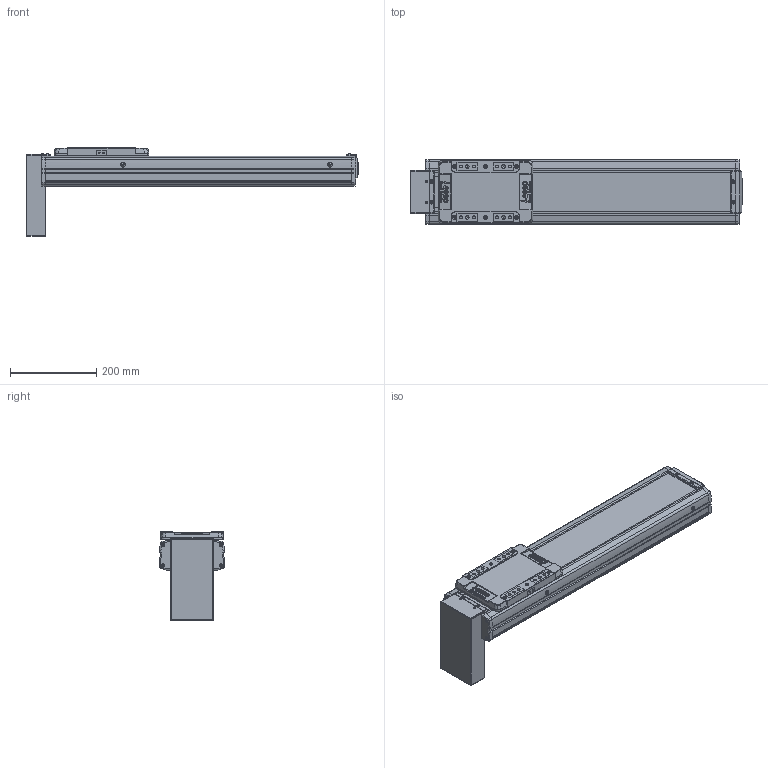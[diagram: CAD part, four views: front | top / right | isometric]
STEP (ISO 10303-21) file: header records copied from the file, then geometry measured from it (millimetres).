
FILE_DESCRIPTION(('STEP AP214'),'1');
FILE_NAME('Z:/Web/3D/SAN150/2013.04 (STP.)/SAN150ㅁㅁ-450PB.stp','2013-05-07T23:44:50',(' '),(' '),'Spatial InterOp 3D',' ',' ');
FILE_SCHEMA(('automotive_design'));
Length unit declared in the file: millimetre
Products named in the file (40): SLBL-SAN150; SLCV-SAN150; FHCS M4.0 x 8.0; BHCS M4.0 x 10.0; SFX-SAN150; RRCV-SAN150; FRBL-SAN150; Spacer; RN15; FRCV-SAN150; Screw 20; BASE-SAN150-000L ; SUS COVER; 스크루 : Round - M5.0 x 6.0; PB; 스크루 : Round - M3.0 x 6.0
Bounding box: 770 x 150 x 205.4 mm (x, y, z)
Volume: 5154595 mm3; surface area: 879932.9 mm2
Topology: 40 solids, 40 shells, 2085 faces, 5347 edges, 3412 vertices
Faces by surface type: plane 1027, cylinder 731, cone 234, sphere 60, bspline 21, torus 12
Entity records: 82476 total; most frequent: CARTESIAN_POINT 13334, DIRECTION 11352, ORIENTED_EDGE 10486, EDGE_CURVE 5243, AXIS2_PLACEMENT_3D 4085, VERTEX_POINT 3412, LINE 3182, VECTOR 3182
